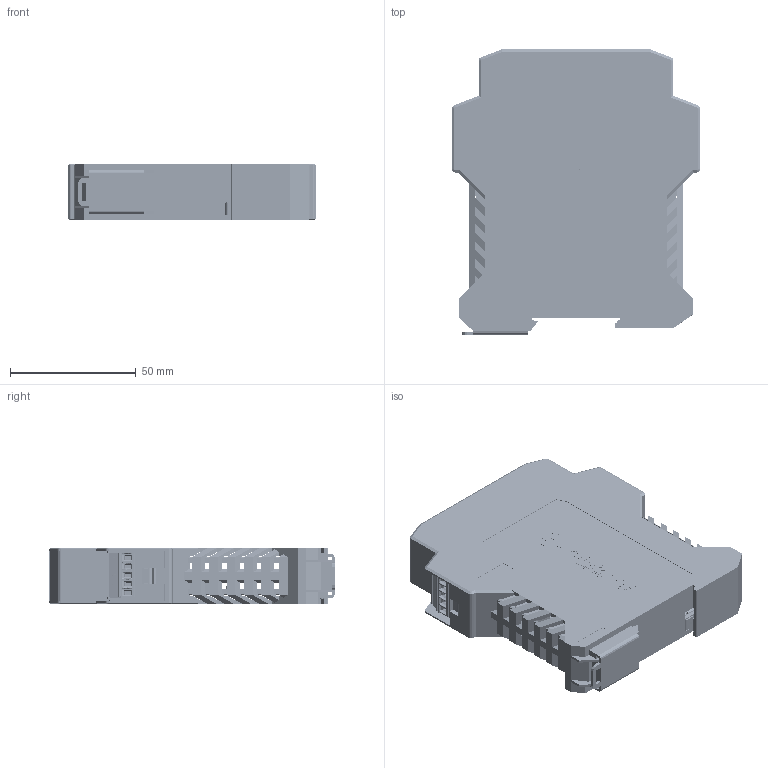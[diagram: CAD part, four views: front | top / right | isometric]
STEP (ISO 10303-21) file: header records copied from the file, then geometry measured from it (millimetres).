
FILE_DESCRIPTION(('STEP AP214'),'1');
FILE_NAME('ES-571 Cased 3D Step.step','2020-12-23T13:10:57',(' '),(' '),'Spatial InterOp 3D','XD3DPlugin XRACreate',' ');
FILE_SCHEMA(('automotive_design'));
Length unit declared in the file: millimetre
Products named in the file (56): Submodel-Input_S\50HEA4X2.xtd; 50HEA4X2; Submodel-50HEA4X2_part_simplified_H100MIL2X4; DesignRootModel; Submodel-Input_S\50HEA4X1_0.xtd; 50HEA4X1_0; Submodel-50HEA4X1_part_simplified_H100MIL1X4; Submodel-Input_S\SMD_ELEC_D.xtd; SMD_ELEC_D; Submodel-7547UF50V_part_simplified_SMD_ELEC_D; Submodel-Input_S\00MAGJACKILED.xtd; 00MAGJACKILED; Submodel-00MAGJACKILED_part_simplified_MAGJACK_LEDS; Submodel-Input_S\10NKE0303SC.xtd; 10NKE0303SC; Submodel-10NKE0303SC_part_simplified_SIP4; Submodel-Input_S\82HEA3MM5TBX5_R_GREY_0.xtd; 82HEA3MM5TBX5_R_GREY_0; Submodel-82HEA3MM5TBX5_R_YELLOW_part_simplified_TBX5_RIGHT; Submodel-Input_S\82HEA3MM5TBX5_L_BLACK.xtd; 82HEA3MM5TBX5_L_BLACK; Submodel-82HEA3MM5TBX5_L_BLACK_part_simplified_TBX5_LEFT; Submodel-Input_S\6610UH5A5.xtd; 6610UH5A5; Submodel-6610UH5A5_part_simplified_SRR1260; Submodel-Input_S\40SMTBUTTON_0.xtd; 40SMTBUTTON_0; Submodel-40SMTBUTTON_part_simplified_SMTBUTTON; Submodel-Input_S\SMC.xtd; SMC; Submodel-55TZ1K5SMC36V_part_simplified_SMC; uid__9223372036854781195; Submodel-AssyDefn_105; BrainboxesLogo.step; Submodel-AssyDefn_104; EDCase2Way.sat; Submodel-AssyDefn_103; 82PLUG3MM5_X5_1_5_BLCK.sat; Submodel-AssyDefn_102; 82BLANKFILLER.sat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
Assembly tree (63 placements, depth 5):
  ES-571 Cased 3D Step
    DesignRootModel
      Submodel-50HEA4X2_part_simplified_H100MIL2X4  x2
        Submodel-Input_S\50HEA4X2.xtd
          50HEA4X2
      Submodel-50HEA4X1_part_simplified_H100MIL1X4
        Submodel-Input_S\50HEA4X1_0.xtd
          50HEA4X1_0
      Submodel-7547UF50V_part_simplified_SMD_ELEC_D
        Submodel-Input_S\SMD_ELEC_D.xtd
          SMD_ELEC_D
      Submodel-00MAGJACKILED_part_simplified_MAGJACK_LEDS  x2
        Submodel-Input_S\00MAGJACKILED.xtd
          00MAGJACKILED
      Submodel-10NKE0303SC_part_simplified_SIP4
        Submodel-Input_S\10NKE0303SC.xtd
          10NKE0303SC
      Submodel-82HEA3MM5TBX5_R_YELLOW_part_simplified_TBX5_RIGHT
        Submodel-Input_S\82HEA3MM5TBX5_R_GREY_0.xtd
          82HEA3MM5TBX5_R_GREY_0
      Submodel-82HEA3MM5TBX5_L_BLACK_part_simplified_TBX5_LEFT
        Submodel-Input_S\82HEA3MM5TBX5_L_BLACK.xtd
          82HEA3MM5TBX5_L_BLACK
      Submodel-6610UH5A5_part_simplified_SRR1260
        Submodel-Input_S\6610UH5A5.xtd
          6610UH5A5
      Submodel-40SMTBUTTON_part_simplified_SMTBUTTON
        Submodel-Input_S\40SMTBUTTON_0.xtd
          40SMTBUTTON_0
      Submodel-55TZ1K5SMC36V_part_simplified_SMC  x3
        Submodel-Input_S\SMC.xtd
          SMC
      uid__9223372036854781195
      Submodel-AssyDefn_105  x2
        BrainboxesLogo.step
      Submodel-AssyDefn_104
        EDCase2Way.sat
      Submodel-AssyDefn_103  x2
        82PLUG3MM5_X5_1_5_BLCK.sat
      Submodel-AssyDefn_102  x2
        82BLANKFILLER.sat
      Submodel-DATUM_2441444698_part_DATUM
        Submodel-noModelForPart_DATUM_2441444698
          placementOutline
      Submodel-55LEDRAGREEN_part_LEDRA
        Submodel-ImportedPartModels\LEDX1BLOCK_RESET.STEP
          LEDX1BLOCK_RESET.xtd
      Submodel-TOOLINGHOLE_1478226124_part_TOOLINGHOLE  x2
        Submodel-noModelForPart_TOOLINGHOLE_1478226124
          placementOutline
      Submodel-REJECTMARK_3219705766_part_REJECTMARK
        Submodel-noModelForPart_REJECTMARK_3219705766
          placementOutline
      Submodel-CHASSISPINS_566188278_part_CHASSISPINS
        Submodel-noModelForPart_CHASSISPINS_566188278
          placementOutline
Bounding box: 99 x 113.64 x 22.6 mm (x, y, z)
Volume: 93999.7 mm3; surface area: 132044.3 mm2
Topology: 277 solids, 277 shells, 17091 faces, 46340 edges, 30092 vertices
Faces by surface type: plane 13446, cylinder 2592, bspline 643, torus 200, cone 187, sphere 23
Full cylindrical faces by diameter (mm): 0.6 x2, 1 x1, 3.81 x1
Entity records: 484772 total; most frequent: CARTESIAN_POINT 81879, ORIENTED_EDGE 64638, DIRECTION 59941, EDGE_CURVE 32319, LINE 26467, VECTOR 26467, VERTEX_POINT 21015, AXIS2_PLACEMENT_3D 16737
